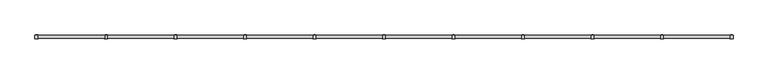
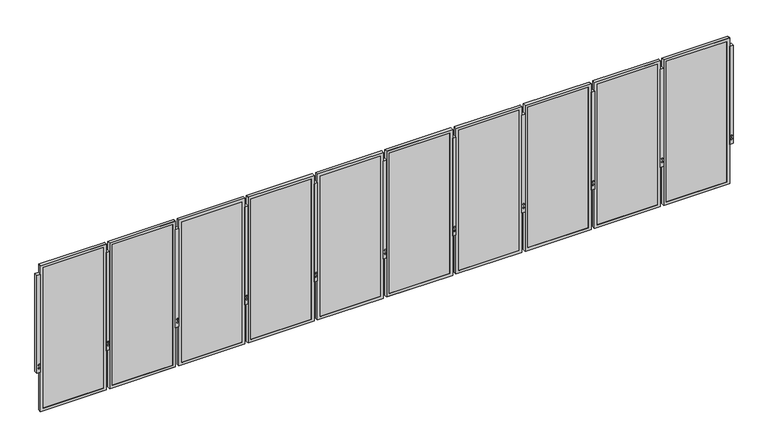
"""IFC4 building model written with IfcOpenShell, lengths in millimetres: railing geometry."""

from ifc_helpers import new_model, si_unit, frame, origin, place, context, project, spatial, polyline, outline, extrude, faceted_brep, source, transform, mapped, element, save


def railing_43f9bcb1(model_context):
    return source(origin(), model_context, "Body", "SolidModel", [
        extrude(outline(polyline([(-18861.6516671, -40155.8902105), (-18810.8516671, -40155.8902105), (-18810.8516671, -40206.6902105), (-18861.6516671, -40206.6902105), (-18861.6516671, -40155.8902105)])), frame((0.0, 0.0, -609.6), z_axis=(0.0, 0.0, 1.0), x_axis=(1.0, 0.0, 0.0)), (0.0, 0.0, 1.0), 1524.0),
        extrude(outline(polyline([(-530.1129981, -18846.6722373), (-542.3802561, -18843.3852354), (-545.667258, -18831.1179774), (-536.6870019, -18822.1377213), (-524.4197439, -18825.4247231), (-521.132742, -18837.6919811), (-530.1129981, -18846.6722373)])), frame((0.0, -40208.5368983, 0.0), z_axis=(0.0, 1.0, 0.0), x_axis=(0.0, 0.0, 1.0)), (0.0, 0.0, 1.0), 54.4933756),
        extrude(outline(polyline([(-479.3129981, -18846.6722373), (-491.5802561, -18843.3852354), (-494.867258, -18831.1179774), (-485.8870019, -18822.1377213), (-473.6197439, -18825.4247231), (-470.332742, -18837.6919811), (-479.3129981, -18846.6722373)])), frame((0.0, -40208.5368983, 0.0), z_axis=(0.0, 1.0, 0.0), x_axis=(0.0, 0.0, 1.0)), (0.0, 0.0, 1.0), 54.4933756),
        faceted_brep([(-19828.0561205, -40203.0834105, -1222.375), (-18859.6811205, -40203.0834105, -1222.375), (-18859.6811205, -40203.0834105, 1044.575), (-19828.0561205, -40203.0834105, 1044.575), (-19786.7811205, -40203.0834105, 1003.3), (-18900.9561205, -40203.0834105, 1003.3), (-18900.9561205, -40203.0834105, -1181.1), (-19786.7811205, -40203.0834105, -1181.1), (-19786.7811205, -40200.3402105, 1003.3), (-19786.7811205, -40200.3402105, -1181.1), (-19828.0561205, -40159.2101139, 1044.575), (-19828.0561205, -40159.2101139, -1222.375), (-19824.8811205, -40159.2101139, 1041.4), (-19824.8811205, -40200.3402105, 1041.4), (-19824.8811205, -40200.3402105, -1219.2), (-19824.8811205, -40159.2101139, -1219.2), (-18900.9561205, -40200.3402105, -1181.1), (-18859.6811205, -40159.2101139, -1222.375), (-18862.8561205, -40200.3402105, -1219.2), (-18862.8561205, -40159.2101139, -1219.2), (-18900.9561205, -40200.3402105, 1003.3), (-18859.6811205, -40159.2101139, 1044.575), (-18862.8561205, -40200.3402105, 1041.4), (-18862.8561205, -40159.2101139, 1041.4)], [[[0, 1, 2, 3], [4, 5, 6, 7]], [[8, 4, 7, 9]], [[3, 10, 11, 0]], [[12, 13, 14, 15]], [[9, 7, 6, 16]], [[0, 11, 17, 1]], [[15, 14, 18, 19]], [[16, 6, 5, 20]], [[1, 17, 21, 2]], [[19, 18, 22, 23]], [[20, 5, 4, 8]], [[10, 21, 17, 11], [15, 19, 23, 12]], [[2, 21, 10, 3]], [[13, 22, 18, 14], [9, 16, 20, 8]], [[23, 22, 13, 12]]]),
        extrude(outline(polyline([(-19824.8811205, -40190.8152105), (-18862.8561205, -40190.8152105), (-18862.8561205, -40200.3402105), (-19824.8811205, -40200.3402105), (-19824.8811205, -40190.8152105)])), frame((0.0, 0.0, -1219.2), z_axis=(0.0, 0.0, 1.0), x_axis=(1.0, 0.0, 0.0)), (0.0, 0.0, 1.0), 2260.6),
        extrude(outline(polyline([(-19879.2391671, -40155.8902105), (-19828.4391671, -40155.8902105), (-19828.4391671, -40206.6902105), (-19879.2391671, -40206.6902105), (-19879.2391671, -40155.8902105)])), frame((0.0, 0.0, -609.6), z_axis=(0.0, 0.0, 1.0), x_axis=(1.0, 0.0, 0.0)), (0.0, 0.0, 1.0), 1524.0),
        extrude(outline(polyline([(-530.1129981, -19864.2597373), (-542.3802561, -19860.9727354), (-545.667258, -19848.7054774), (-536.6870019, -19839.7252213), (-524.4197439, -19843.0122231), (-521.132742, -19855.2794811), (-530.1129981, -19864.2597373)])), frame((0.0, -40208.5368983, 0.0), z_axis=(0.0, 1.0, 0.0), x_axis=(0.0, 0.0, 1.0)), (0.0, 0.0, 1.0), 54.4933756),
        extrude(outline(polyline([(-479.3129981, -19864.2597373), (-491.5802561, -19860.9727354), (-494.867258, -19848.7054774), (-485.8870019, -19839.7252213), (-473.6197439, -19843.0122231), (-470.332742, -19855.2794811), (-479.3129981, -19864.2597373)])), frame((0.0, -40208.5368983, 0.0), z_axis=(0.0, 1.0, 0.0), x_axis=(0.0, 0.0, 1.0)), (0.0, 0.0, 1.0), 54.4933756),
        faceted_brep([(-20845.6436205, -40203.0834105, -1222.375), (-19877.2686205, -40203.0834105, -1222.375), (-19877.2686205, -40203.0834105, 1044.575), (-20845.6436205, -40203.0834105, 1044.575), (-20804.3686205, -40203.0834105, 1003.3), (-19918.5436205, -40203.0834105, 1003.3), (-19918.5436205, -40203.0834105, -1181.1), (-20804.3686205, -40203.0834105, -1181.1), (-20804.3686205, -40200.3402105, 1003.3), (-20804.3686205, -40200.3402105, -1181.1), (-20845.6436205, -40159.2101139, 1044.575), (-20845.6436205, -40159.2101139, -1222.375), (-20842.4686205, -40159.2101139, 1041.4), (-20842.4686205, -40200.3402105, 1041.4), (-20842.4686205, -40200.3402105, -1219.2), (-20842.4686205, -40159.2101139, -1219.2), (-19918.5436205, -40200.3402105, -1181.1), (-19877.2686205, -40159.2101139, -1222.375), (-19880.4436205, -40200.3402105, -1219.2), (-19880.4436205, -40159.2101139, -1219.2), (-19918.5436205, -40200.3402105, 1003.3), (-19877.2686205, -40159.2101139, 1044.575), (-19880.4436205, -40200.3402105, 1041.4), (-19880.4436205, -40159.2101139, 1041.4)], [[[0, 1, 2, 3], [4, 5, 6, 7]], [[8, 4, 7, 9]], [[3, 10, 11, 0]], [[12, 13, 14, 15]], [[9, 7, 6, 16]], [[0, 11, 17, 1]], [[15, 14, 18, 19]], [[16, 6, 5, 20]], [[1, 17, 21, 2]], [[19, 18, 22, 23]], [[20, 5, 4, 8]], [[10, 21, 17, 11], [15, 19, 23, 12]], [[2, 21, 10, 3]], [[13, 22, 18, 14], [9, 16, 20, 8]], [[23, 22, 13, 12]]]),
        extrude(outline(polyline([(-20842.4686205, -40190.8152105), (-19880.4436205, -40190.8152105), (-19880.4436205, -40200.3402105), (-20842.4686205, -40200.3402105), (-20842.4686205, -40190.8152105)])), frame((0.0, 0.0, -1219.2), z_axis=(0.0, 0.0, 1.0), x_axis=(1.0, 0.0, 0.0)), (0.0, 0.0, 1.0), 2260.6),
        extrude(outline(polyline([(-20896.8266671, -40155.8902105), (-20846.0266671, -40155.8902105), (-20846.0266671, -40206.6902105), (-20896.8266671, -40206.6902105), (-20896.8266671, -40155.8902105)])), frame((0.0, 0.0, -609.6), z_axis=(0.0, 0.0, 1.0), x_axis=(1.0, 0.0, 0.0)), (0.0, 0.0, 1.0), 1524.0),
        extrude(outline(polyline([(-530.1129981, -20881.8472373), (-542.3802561, -20878.5602354), (-545.667258, -20866.2929774), (-536.6870019, -20857.3127213), (-524.4197439, -20860.5997231), (-521.132742, -20872.8669811), (-530.1129981, -20881.8472373)])), frame((0.0, -40208.5368983, 0.0), z_axis=(0.0, 1.0, 0.0), x_axis=(0.0, 0.0, 1.0)), (0.0, 0.0, 1.0), 54.4933756),
        extrude(outline(polyline([(-479.3129981, -20881.8472373), (-491.5802561, -20878.5602354), (-494.867258, -20866.2929774), (-485.8870019, -20857.3127213), (-473.6197439, -20860.5997231), (-470.332742, -20872.8669811), (-479.3129981, -20881.8472373)])), frame((0.0, -40208.5368983, 0.0), z_axis=(0.0, 1.0, 0.0), x_axis=(0.0, 0.0, 1.0)), (0.0, 0.0, 1.0), 54.4933756),
        faceted_brep([(-21863.2311205, -40203.0834105, -1222.375), (-20894.8561205, -40203.0834105, -1222.375), (-20894.8561205, -40203.0834105, 1044.575), (-21863.2311205, -40203.0834105, 1044.575), (-21821.9561205, -40203.0834105, 1003.3), (-20936.1311205, -40203.0834105, 1003.3), (-20936.1311205, -40203.0834105, -1181.1), (-21821.9561205, -40203.0834105, -1181.1), (-21821.9561205, -40200.3402105, 1003.3), (-21821.9561205, -40200.3402105, -1181.1), (-21863.2311205, -40159.2101139, 1044.575), (-21863.2311205, -40159.2101139, -1222.375), (-21860.0561205, -40159.2101139, 1041.4), (-21860.0561205, -40200.3402105, 1041.4), (-21860.0561205, -40200.3402105, -1219.2), (-21860.0561205, -40159.2101139, -1219.2), (-20936.1311205, -40200.3402105, -1181.1), (-20894.8561205, -40159.2101139, -1222.375), (-20898.0311205, -40200.3402105, -1219.2), (-20898.0311205, -40159.2101139, -1219.2), (-20936.1311205, -40200.3402105, 1003.3), (-20894.8561205, -40159.2101139, 1044.575), (-20898.0311205, -40200.3402105, 1041.4), (-20898.0311205, -40159.2101139, 1041.4)], [[[0, 1, 2, 3], [4, 5, 6, 7]], [[8, 4, 7, 9]], [[3, 10, 11, 0]], [[12, 13, 14, 15]], [[9, 7, 6, 16]], [[0, 11, 17, 1]], [[15, 14, 18, 19]], [[16, 6, 5, 20]], [[1, 17, 21, 2]], [[19, 18, 22, 23]], [[20, 5, 4, 8]], [[10, 21, 17, 11], [15, 19, 23, 12]], [[2, 21, 10, 3]], [[13, 22, 18, 14], [9, 16, 20, 8]], [[23, 22, 13, 12]]]),
        extrude(outline(polyline([(-21860.0561205, -40190.8152105), (-20898.0311205, -40190.8152105), (-20898.0311205, -40200.3402105), (-21860.0561205, -40200.3402105), (-21860.0561205, -40190.8152105)])), frame((0.0, 0.0, -1219.2), z_axis=(0.0, 0.0, 1.0), x_axis=(1.0, 0.0, 0.0)), (0.0, 0.0, 1.0), 2260.6),
        extrude(outline(polyline([(-21914.4141671, -40155.8902105), (-21863.6141671, -40155.8902105), (-21863.6141671, -40206.6902105), (-21914.4141671, -40206.6902105), (-21914.4141671, -40155.8902105)])), frame((0.0, 0.0, -609.6), z_axis=(0.0, 0.0, 1.0), x_axis=(1.0, 0.0, 0.0)), (0.0, 0.0, 1.0), 1524.0),
        extrude(outline(polyline([(-530.1129981, -21899.4347373), (-542.3802561, -21896.1477354), (-545.667258, -21883.8804774), (-536.6870019, -21874.9002213), (-524.4197439, -21878.1872231), (-521.132742, -21890.4544811), (-530.1129981, -21899.4347373)])), frame((0.0, -40208.5368983, 0.0), z_axis=(0.0, 1.0, 0.0), x_axis=(0.0, 0.0, 1.0)), (0.0, 0.0, 1.0), 54.4933756),
        extrude(outline(polyline([(-479.3129981, -21899.4347373), (-491.5802561, -21896.1477354), (-494.867258, -21883.8804774), (-485.8870019, -21874.9002213), (-473.6197439, -21878.1872231), (-470.332742, -21890.4544811), (-479.3129981, -21899.4347373)])), frame((0.0, -40208.5368983, 0.0), z_axis=(0.0, 1.0, 0.0), x_axis=(0.0, 0.0, 1.0)), (0.0, 0.0, 1.0), 54.4933756),
        faceted_brep([(-22880.8186205, -40203.0834105, -1222.375), (-21912.4436205, -40203.0834105, -1222.375), (-21912.4436205, -40203.0834105, 1044.575), (-22880.8186205, -40203.0834105, 1044.575), (-22839.5436205, -40203.0834105, 1003.3), (-21953.7186205, -40203.0834105, 1003.3), (-21953.7186205, -40203.0834105, -1181.1), (-22839.5436205, -40203.0834105, -1181.1), (-22839.5436205, -40200.3402105, 1003.3), (-22839.5436205, -40200.3402105, -1181.1), (-22880.8186205, -40159.2101139, 1044.575), (-22880.8186205, -40159.2101139, -1222.375), (-22877.6436205, -40159.2101139, 1041.4), (-22877.6436205, -40200.3402105, 1041.4), (-22877.6436205, -40200.3402105, -1219.2), (-22877.6436205, -40159.2101139, -1219.2), (-21953.7186205, -40200.3402105, -1181.1), (-21912.4436205, -40159.2101139, -1222.375), (-21915.6186205, -40200.3402105, -1219.2), (-21915.6186205, -40159.2101139, -1219.2), (-21953.7186205, -40200.3402105, 1003.3), (-21912.4436205, -40159.2101139, 1044.575), (-21915.6186205, -40200.3402105, 1041.4), (-21915.6186205, -40159.2101139, 1041.4)], [[[0, 1, 2, 3], [4, 5, 6, 7]], [[8, 4, 7, 9]], [[3, 10, 11, 0]], [[12, 13, 14, 15]], [[9, 7, 6, 16]], [[0, 11, 17, 1]], [[15, 14, 18, 19]], [[16, 6, 5, 20]], [[1, 17, 21, 2]], [[19, 18, 22, 23]], [[20, 5, 4, 8]], [[10, 21, 17, 11], [15, 19, 23, 12]], [[2, 21, 10, 3]], [[13, 22, 18, 14], [9, 16, 20, 8]], [[23, 22, 13, 12]]]),
        extrude(outline(polyline([(-22877.6436205, -40190.8152105), (-21915.6186205, -40190.8152105), (-21915.6186205, -40200.3402105), (-22877.6436205, -40200.3402105), (-22877.6436205, -40190.8152105)])), frame((0.0, 0.0, -1219.2), z_axis=(0.0, 0.0, 1.0), x_axis=(1.0, 0.0, 0.0)), (0.0, 0.0, 1.0), 2260.6),
        extrude(outline(polyline([(-22932.0016671, -40155.8902105), (-22881.2016671, -40155.8902105), (-22881.2016671, -40206.6902105), (-22932.0016671, -40206.6902105), (-22932.0016671, -40155.8902105)])), frame((0.0, 0.0, -609.6), z_axis=(0.0, 0.0, 1.0), x_axis=(1.0, 0.0, 0.0)), (0.0, 0.0, 1.0), 1524.0),
        extrude(outline(polyline([(-530.1129981, -22917.0222373), (-542.3802561, -22913.7352354), (-545.667258, -22901.4679774), (-536.6870019, -22892.4877213), (-524.4197439, -22895.7747231), (-521.132742, -22908.0419811), (-530.1129981, -22917.0222373)])), frame((0.0, -40208.5368983, 0.0), z_axis=(0.0, 1.0, 0.0), x_axis=(0.0, 0.0, 1.0)), (0.0, 0.0, 1.0), 54.4933756),
        extrude(outline(polyline([(-479.3129981, -22917.0222373), (-491.5802561, -22913.7352354), (-494.867258, -22901.4679774), (-485.8870019, -22892.4877213), (-473.6197439, -22895.7747231), (-470.332742, -22908.0419811), (-479.3129981, -22917.0222373)])), frame((0.0, -40208.5368983, 0.0), z_axis=(0.0, 1.0, 0.0), x_axis=(0.0, 0.0, 1.0)), (0.0, 0.0, 1.0), 54.4933756),
        faceted_brep([(-23898.4061205, -40203.0834105, -1222.375), (-22930.0311205, -40203.0834105, -1222.375), (-22930.0311205, -40203.0834105, 1044.575), (-23898.4061205, -40203.0834105, 1044.575), (-23857.1311205, -40203.0834105, 1003.3), (-22971.3061205, -40203.0834105, 1003.3), (-22971.3061205, -40203.0834105, -1181.1), (-23857.1311205, -40203.0834105, -1181.1), (-23857.1311205, -40200.3402105, 1003.3), (-23857.1311205, -40200.3402105, -1181.1), (-23898.4061205, -40159.2101139, 1044.575), (-23898.4061205, -40159.2101139, -1222.375), (-23895.2311205, -40159.2101139, 1041.4), (-23895.2311205, -40200.3402105, 1041.4), (-23895.2311205, -40200.3402105, -1219.2), (-23895.2311205, -40159.2101139, -1219.2), (-22971.3061205, -40200.3402105, -1181.1), (-22930.0311205, -40159.2101139, -1222.375), (-22933.2061205, -40200.3402105, -1219.2), (-22933.2061205, -40159.2101139, -1219.2), (-22971.3061205, -40200.3402105, 1003.3), (-22930.0311205, -40159.2101139, 1044.575), (-22933.2061205, -40200.3402105, 1041.4), (-22933.2061205, -40159.2101139, 1041.4)], [[[0, 1, 2, 3], [4, 5, 6, 7]], [[8, 4, 7, 9]], [[3, 10, 11, 0]], [[12, 13, 14, 15]], [[9, 7, 6, 16]], [[0, 11, 17, 1]], [[15, 14, 18, 19]], [[16, 6, 5, 20]], [[1, 17, 21, 2]], [[19, 18, 22, 23]], [[20, 5, 4, 8]], [[10, 21, 17, 11], [15, 19, 23, 12]], [[2, 21, 10, 3]], [[13, 22, 18, 14], [9, 16, 20, 8]], [[23, 22, 13, 12]]]),
        extrude(outline(polyline([(-23895.2311205, -40190.8152105), (-22933.2061205, -40190.8152105), (-22933.2061205, -40200.3402105), (-23895.2311205, -40200.3402105), (-23895.2311205, -40190.8152105)])), frame((0.0, 0.0, -1219.2), z_axis=(0.0, 0.0, 1.0), x_axis=(1.0, 0.0, 0.0)), (0.0, 0.0, 1.0), 2260.6),
        extrude(outline(polyline([(-23949.5891671, -40155.8902105), (-23898.7891671, -40155.8902105), (-23898.7891671, -40206.6902105), (-23949.5891671, -40206.6902105), (-23949.5891671, -40155.8902105)])), frame((0.0, 0.0, -609.6), z_axis=(0.0, 0.0, 1.0), x_axis=(1.0, 0.0, 0.0)), (0.0, 0.0, 1.0), 1524.0),
        extrude(outline(polyline([(-530.1129981, -23934.6097373), (-542.3802561, -23931.3227354), (-545.667258, -23919.0554774), (-536.6870019, -23910.0752213), (-524.4197439, -23913.3622231), (-521.132742, -23925.6294811), (-530.1129981, -23934.6097373)])), frame((0.0, -40208.5368983, 0.0), z_axis=(0.0, 1.0, 0.0), x_axis=(0.0, 0.0, 1.0)), (0.0, 0.0, 1.0), 54.4933756),
        extrude(outline(polyline([(-479.3129981, -23934.6097373), (-491.5802561, -23931.3227354), (-494.867258, -23919.0554774), (-485.8870019, -23910.0752213), (-473.6197439, -23913.3622231), (-470.332742, -23925.6294811), (-479.3129981, -23934.6097373)])), frame((0.0, -40208.5368983, 0.0), z_axis=(0.0, 1.0, 0.0), x_axis=(0.0, 0.0, 1.0)), (0.0, 0.0, 1.0), 54.4933756),
        faceted_brep([(-24915.9936205, -40203.0834105, -1222.375), (-23947.6186205, -40203.0834105, -1222.375), (-23947.6186205, -40203.0834105, 1044.575), (-24915.9936205, -40203.0834105, 1044.575), (-24874.7186205, -40203.0834105, 1003.3), (-23988.8936205, -40203.0834105, 1003.3), (-23988.8936205, -40203.0834105, -1181.1), (-24874.7186205, -40203.0834105, -1181.1), (-24874.7186205, -40200.3402105, 1003.3), (-24874.7186205, -40200.3402105, -1181.1), (-24915.9936205, -40159.2101139, 1044.575), (-24915.9936205, -40159.2101139, -1222.375), (-24912.8186205, -40159.2101139, 1041.4), (-24912.8186205, -40200.3402105, 1041.4), (-24912.8186205, -40200.3402105, -1219.2), (-24912.8186205, -40159.2101139, -1219.2), (-23988.8936205, -40200.3402105, -1181.1), (-23947.6186205, -40159.2101139, -1222.375), (-23950.7936205, -40200.3402105, -1219.2), (-23950.7936205, -40159.2101139, -1219.2), (-23988.8936205, -40200.3402105, 1003.3), (-23947.6186205, -40159.2101139, 1044.575), (-23950.7936205, -40200.3402105, 1041.4), (-23950.7936205, -40159.2101139, 1041.4)], [[[0, 1, 2, 3], [4, 5, 6, 7]], [[8, 4, 7, 9]], [[3, 10, 11, 0]], [[12, 13, 14, 15]], [[9, 7, 6, 16]], [[0, 11, 17, 1]], [[15, 14, 18, 19]], [[16, 6, 5, 20]], [[1, 17, 21, 2]], [[19, 18, 22, 23]], [[20, 5, 4, 8]], [[10, 21, 17, 11], [15, 19, 23, 12]], [[2, 21, 10, 3]], [[13, 22, 18, 14], [9, 16, 20, 8]], [[23, 22, 13, 12]]]),
        extrude(outline(polyline([(-24912.8186205, -40190.8152105), (-23950.7936205, -40190.8152105), (-23950.7936205, -40200.3402105), (-24912.8186205, -40200.3402105), (-24912.8186205, -40190.8152105)])), frame((0.0, 0.0, -1219.2), z_axis=(0.0, 0.0, 1.0), x_axis=(1.0, 0.0, 0.0)), (0.0, 0.0, 1.0), 2260.6),
        extrude(outline(polyline([(-24967.1766671, -40155.8902105), (-24916.3766671, -40155.8902105), (-24916.3766671, -40206.6902105), (-24967.1766671, -40206.6902105), (-24967.1766671, -40155.8902105)])), frame((0.0, 0.0, -609.6), z_axis=(0.0, 0.0, 1.0), x_axis=(1.0, 0.0, 0.0)), (0.0, 0.0, 1.0), 1524.0),
        extrude(outline(polyline([(-530.1129981, -24952.1972373), (-542.3802561, -24948.9102354), (-545.667258, -24936.6429774), (-536.6870019, -24927.6627213), (-524.4197439, -24930.9497231), (-521.132742, -24943.2169811), (-530.1129981, -24952.1972373)])), frame((0.0, -40208.5368983, 0.0), z_axis=(0.0, 1.0, 0.0), x_axis=(0.0, 0.0, 1.0)), (0.0, 0.0, 1.0), 54.4933756),
        extrude(outline(polyline([(-479.3129981, -24952.1972373), (-491.5802561, -24948.9102354), (-494.867258, -24936.6429774), (-485.8870019, -24927.6627213), (-473.6197439, -24930.9497231), (-470.332742, -24943.2169811), (-479.3129981, -24952.1972373)])), frame((0.0, -40208.5368983, 0.0), z_axis=(0.0, 1.0, 0.0), x_axis=(0.0, 0.0, 1.0)), (0.0, 0.0, 1.0), 54.4933756),
        faceted_brep([(-25933.5811205, -40203.0834105, -1222.375), (-24965.2061205, -40203.0834105, -1222.375), (-24965.2061205, -40203.0834105, 1044.575), (-25933.5811205, -40203.0834105, 1044.575), (-25892.3061205, -40203.0834105, 1003.3), (-25006.4811205, -40203.0834105, 1003.3), (-25006.4811205, -40203.0834105, -1181.1), (-25892.3061205, -40203.0834105, -1181.1), (-25892.3061205, -40200.3402105, 1003.3), (-25892.3061205, -40200.3402105, -1181.1), (-25933.5811205, -40159.2101139, 1044.575), (-25933.5811205, -40159.2101139, -1222.375), (-25930.4061205, -40159.2101139, 1041.4), (-25930.4061205, -40200.3402105, 1041.4), (-25930.4061205, -40200.3402105, -1219.2), (-25930.4061205, -40159.2101139, -1219.2), (-25006.4811205, -40200.3402105, -1181.1), (-24965.2061205, -40159.2101139, -1222.375), (-24968.3811205, -40200.3402105, -1219.2), (-24968.3811205, -40159.2101139, -1219.2), (-25006.4811205, -40200.3402105, 1003.3), (-24965.2061205, -40159.2101139, 1044.575), (-24968.3811205, -40200.3402105, 1041.4), (-24968.3811205, -40159.2101139, 1041.4)], [[[0, 1, 2, 3], [4, 5, 6, 7]], [[8, 4, 7, 9]], [[3, 10, 11, 0]], [[12, 13, 14, 15]], [[9, 7, 6, 16]], [[0, 11, 17, 1]], [[15, 14, 18, 19]], [[16, 6, 5, 20]], [[1, 17, 21, 2]], [[19, 18, 22, 23]], [[20, 5, 4, 8]], [[10, 21, 17, 11], [15, 19, 23, 12]], [[2, 21, 10, 3]], [[13, 22, 18, 14], [9, 16, 20, 8]], [[23, 22, 13, 12]]]),
        extrude(outline(polyline([(-25930.4061205, -40190.8152105), (-24968.3811205, -40190.8152105), (-24968.3811205, -40200.3402105), (-25930.4061205, -40200.3402105), (-25930.4061205, -40190.8152105)])), frame((0.0, 0.0, -1219.2), z_axis=(0.0, 0.0, 1.0), x_axis=(1.0, 0.0, 0.0)), (0.0, 0.0, 1.0), 2260.6),
        extrude(outline(polyline([(-25984.7641671, -40155.8902105), (-25933.9641671, -40155.8902105), (-25933.9641671, -40206.6902105), (-25984.7641671, -40206.6902105), (-25984.7641671, -40155.8902105)])), frame((0.0, 0.0, -609.6), z_axis=(0.0, 0.0, 1.0), x_axis=(1.0, 0.0, 0.0)), (0.0, 0.0, 1.0), 1524.0),
        extrude(outline(polyline([(-530.1129981, -25969.7847373), (-542.3802561, -25966.4977354), (-545.667258, -25954.2304774), (-536.6870019, -25945.2502213), (-524.4197439, -25948.5372231), (-521.132742, -25960.8044811), (-530.1129981, -25969.7847373)])), frame((0.0, -40208.5368983, 0.0), z_axis=(0.0, 1.0, 0.0), x_axis=(0.0, 0.0, 1.0)), (0.0, 0.0, 1.0), 54.4933756),
        extrude(outline(polyline([(-479.3129981, -25969.7847373), (-491.5802561, -25966.4977354), (-494.867258, -25954.2304774), (-485.8870019, -25945.2502213), (-473.6197439, -25948.5372231), (-470.332742, -25960.8044811), (-479.3129981, -25969.7847373)])), frame((0.0, -40208.5368983, 0.0), z_axis=(0.0, 1.0, 0.0), x_axis=(0.0, 0.0, 1.0)), (0.0, 0.0, 1.0), 54.4933756),
        faceted_brep([(-26951.1686205, -40203.0834105, -1222.375), (-25982.7936205, -40203.0834105, -1222.375), (-25982.7936205, -40203.0834105, 1044.575), (-26951.1686205, -40203.0834105, 1044.575), (-26909.8936205, -40203.0834105, 1003.3), (-26024.0686205, -40203.0834105, 1003.3), (-26024.0686205, -40203.0834105, -1181.1), (-26909.8936205, -40203.0834105, -1181.1), (-26909.8936205, -40200.3402105, 1003.3), (-26909.8936205, -40200.3402105, -1181.1), (-26951.1686205, -40159.2101139, 1044.575), (-26951.1686205, -40159.2101139, -1222.375), (-26947.9936205, -40159.2101139, 1041.4), (-26947.9936205, -40200.3402105, 1041.4), (-26947.9936205, -40200.3402105, -1219.2), (-26947.9936205, -40159.2101139, -1219.2), (-26024.0686205, -40200.3402105, -1181.1), (-25982.7936205, -40159.2101139, -1222.375), (-25985.9686205, -40200.3402105, -1219.2), (-25985.9686205, -40159.2101139, -1219.2), (-26024.0686205, -40200.3402105, 1003.3), (-25982.7936205, -40159.2101139, 1044.575), (-25985.9686205, -40200.3402105, 1041.4), (-25985.9686205, -40159.2101139, 1041.4)], [[[0, 1, 2, 3], [4, 5, 6, 7]], [[8, 4, 7, 9]], [[3, 10, 11, 0]], [[12, 13, 14, 15]], [[9, 7, 6, 16]], [[0, 11, 17, 1]], [[15, 14, 18, 19]], [[16, 6, 5, 20]], [[1, 17, 21, 2]], [[19, 18, 22, 23]], [[20, 5, 4, 8]], [[10, 21, 17, 11], [15, 19, 23, 12]], [[2, 21, 10, 3]], [[13, 22, 18, 14], [9, 16, 20, 8]], [[23, 22, 13, 12]]]),
        extrude(outline(polyline([(-26947.9936205, -40190.8152105), (-25985.9686205, -40190.8152105), (-25985.9686205, -40200.3402105), (-26947.9936205, -40200.3402105), (-26947.9936205, -40190.8152105)])), frame((0.0, 0.0, -1219.2), z_axis=(0.0, 0.0, 1.0), x_axis=(1.0, 0.0, 0.0)), (0.0, 0.0, 1.0), 2260.6),
        extrude(outline(polyline([(-27002.3516671, -40155.8902105), (-26951.5516671, -40155.8902105), (-26951.5516671, -40206.6902105), (-27002.3516671, -40206.6902105), (-27002.3516671, -40155.8902105)])), frame((0.0, 0.0, -609.6), z_axis=(0.0, 0.0, 1.0), x_axis=(1.0, 0.0, 0.0)), (0.0, 0.0, 1.0), 1524.0),
        extrude(outline(polyline([(-530.1129981, -26987.3722373), (-542.3802561, -26984.0852354), (-545.667258, -26971.8179774), (-536.6870019, -26962.8377213), (-524.4197439, -26966.1247231), (-521.132742, -26978.3919811), (-530.1129981, -26987.3722373)])), frame((0.0, -40208.5368983, 0.0), z_axis=(0.0, 1.0, 0.0), x_axis=(0.0, 0.0, 1.0)), (0.0, 0.0, 1.0), 54.4933756),
        extrude(outline(polyline([(-479.3129981, -26987.3722373), (-491.5802561, -26984.0852354), (-494.867258, -26971.8179774), (-485.8870019, -26962.8377213), (-473.6197439, -26966.1247231), (-470.332742, -26978.3919811), (-479.3129981, -26987.3722373)])), frame((0.0, -40208.5368983, 0.0), z_axis=(0.0, 1.0, 0.0), x_axis=(0.0, 0.0, 1.0)), (0.0, 0.0, 1.0), 54.4933756),
        faceted_brep([(-27968.7561205, -40203.0834105, -1222.375), (-27000.3811205, -40203.0834105, -1222.375), (-27000.3811205, -40203.0834105, 1044.575), (-27968.7561205, -40203.0834105, 1044.575), (-27927.4811205, -40203.0834105, 1003.3), (-27041.6561205, -40203.0834105, 1003.3), (-27041.6561205, -40203.0834105, -1181.1), (-27927.4811205, -40203.0834105, -1181.1), (-27927.4811205, -40200.3402105, 1003.3), (-27927.4811205, -40200.3402105, -1181.1), (-27968.7561205, -40159.2101139, 1044.575), (-27968.7561205, -40159.2101139, -1222.375), (-27965.5811205, -40159.2101139, 1041.4), (-27965.5811205, -40200.3402105, 1041.4), (-27965.5811205, -40200.3402105, -1219.2), (-27965.5811205, -40159.2101139, -1219.2), (-27041.6561205, -40200.3402105, -1181.1), (-27000.3811205, -40159.2101139, -1222.375), (-27003.5561205, -40200.3402105, -1219.2), (-27003.5561205, -40159.2101139, -1219.2), (-27041.6561205, -40200.3402105, 1003.3), (-27000.3811205, -40159.2101139, 1044.575), (-27003.5561205, -40200.3402105, 1041.4), (-27003.5561205, -40159.2101139, 1041.4)], [[[0, 1, 2, 3], [4, 5, 6, 7]], [[8, 4, 7, 9]], [[3, 10, 11, 0]], [[12, 13, 14, 15]], [[9, 7, 6, 16]], [[0, 11, 17, 1]], [[15, 14, 18, 19]], [[16, 6, 5, 20]], [[1, 17, 21, 2]], [[19, 18, 22, 23]], [[20, 5, 4, 8]], [[10, 21, 17, 11], [15, 19, 23, 12]], [[2, 21, 10, 3]], [[13, 22, 18, 14], [9, 16, 20, 8]], [[23, 22, 13, 12]]]),
        extrude(outline(polyline([(-27965.5811205, -40190.8152105), (-27003.5561205, -40190.8152105), (-27003.5561205, -40200.3402105), (-27965.5811205, -40200.3402105), (-27965.5811205, -40190.8152105)])), frame((0.0, 0.0, -1219.2), z_axis=(0.0, 0.0, 1.0), x_axis=(1.0, 0.0, 0.0)), (0.0, 0.0, 1.0), 2260.6),
        extrude(outline(polyline([(-28019.9391671, -40155.8902105), (-27969.1391671, -40155.8902105), (-27969.1391671, -40206.6902105), (-28019.9391671, -40206.6902105), (-28019.9391671, -40155.8902105)])), frame((0.0, 0.0, -609.6), z_axis=(0.0, 0.0, 1.0), x_axis=(1.0, 0.0, 0.0)), (0.0, 0.0, 1.0), 1524.0),
        extrude(outline(polyline([(-530.1129981, -28004.9597373), (-542.3802561, -28001.6727354), (-545.667258, -27989.4054774), (-536.6870019, -27980.4252213), (-524.4197439, -27983.7122231), (-521.132742, -27995.9794811), (-530.1129981, -28004.9597373)])), frame((0.0, -40208.5368983, 0.0), z_axis=(0.0, 1.0, 0.0), x_axis=(0.0, 0.0, 1.0)), (0.0, 0.0, 1.0), 54.4933756),
        extrude(outline(polyline([(-479.3129981, -28004.9597373), (-491.5802561, -28001.6727354), (-494.867258, -27989.4054774), (-485.8870019, -27980.4252213), (-473.6197439, -27983.7122231), (-470.332742, -27995.9794811), (-479.3129981, -28004.9597373)])), frame((0.0, -40208.5368983, 0.0), z_axis=(0.0, 1.0, 0.0), x_axis=(0.0, 0.0, 1.0)), (0.0, 0.0, 1.0), 54.4933756),
        faceted_brep([(-28986.3436205, -40203.0834105, -1222.375), (-28017.9686205, -40203.0834105, -1222.375), (-28017.9686205, -40203.0834105, 1044.575), (-28986.3436205, -40203.0834105, 1044.575), (-28945.0686205, -40203.0834105, 1003.3), (-28059.2436205, -40203.0834105, 1003.3), (-28059.2436205, -40203.0834105, -1181.1), (-28945.0686205, -40203.0834105, -1181.1), (-28945.0686205, -40200.3402105, 1003.3), (-28945.0686205, -40200.3402105, -1181.1), (-28986.3436205, -40159.2101139, 1044.575), (-28986.3436205, -40159.2101139, -1222.375), (-28983.1686205, -40159.2101139, 1041.4), (-28983.1686205, -40200.3402105, 1041.4), (-28983.1686205, -40200.3402105, -1219.2), (-28983.1686205, -40159.2101139, -1219.2), (-28059.2436205, -40200.3402105, -1181.1), (-28017.9686205, -40159.2101139, -1222.375), (-28021.1436205, -40200.3402105, -1219.2), (-28021.1436205, -40159.2101139, -1219.2), (-28059.2436205, -40200.3402105, 1003.3), (-28017.9686205, -40159.2101139, 1044.575), (-28021.1436205, -40200.3402105, 1041.4), (-28021.1436205, -40159.2101139, 1041.4)], [[[0, 1, 2, 3], [4, 5, 6, 7]], [[8, 4, 7, 9]], [[3, 10, 11, 0]], [[12, 13, 14, 15]], [[9, 7, 6, 16]], [[0, 11, 17, 1]], [[15, 14, 18, 19]], [[16, 6, 5, 20]], [[1, 17, 21, 2]], [[19, 18, 22, 23]], [[20, 5, 4, 8]], [[10, 21, 17, 11], [15, 19, 23, 12]], [[2, 21, 10, 3]], [[13, 22, 18, 14], [9, 16, 20, 8]], [[23, 22, 13, 12]]]),
        extrude(outline(polyline([(-28983.1686205, -40190.8152105), (-28021.1436205, -40190.8152105), (-28021.1436205, -40200.3402105), (-28983.1686205, -40200.3402105), (-28983.1686205, -40190.8152105)])), frame((0.0, 0.0, -1219.2), z_axis=(0.0, 0.0, 1.0), x_axis=(1.0, 0.0, 0.0)), (0.0, 0.0, 1.0), 2260.6),
        extrude(outline(polyline([(-29037.5266671, -40155.8902105), (-28986.7266671, -40155.8902105), (-28986.7266671, -40206.6902105), (-29037.5266671, -40206.6902105), (-29037.5266671, -40155.8902105)])), frame((0.0, 0.0, -609.6), z_axis=(0.0, 0.0, 1.0), x_axis=(1.0, 0.0, 0.0)), (0.0, 0.0, 1.0), 1524.0),
        extrude(outline(polyline([(-530.1129981, -29022.5472373), (-542.3802561, -29019.2602354), (-545.667258, -29006.9929774), (-536.6870019, -28998.0127213), (-524.4197439, -29001.2997231), (-521.132742, -29013.5669811), (-530.1129981, -29022.5472373)])), frame((0.0, -40208.5368983, 0.0), z_axis=(0.0, 1.0, 0.0), x_axis=(0.0, 0.0, 1.0)), (0.0, 0.0, 1.0), 54.4933756),
        extrude(outline(polyline([(-479.3129981, -29022.5472373), (-491.5802561, -29019.2602354), (-494.867258, -29006.9929774), (-485.8870019, -28998.0127213), (-473.6197439, -29001.2997231), (-470.332742, -29013.5669811), (-479.3129981, -29022.5472373)])), frame((0.0, -40208.5368983, 0.0), z_axis=(0.0, 1.0, 0.0), x_axis=(0.0, 0.0, 1.0)), (0.0, 0.0, 1.0), 54.4933756),
    ])


if __name__ == "__main__":
    model = new_model("IFC4")
    model_context = context("Model", 3, world=origin())
    ifc_project = project(units=[si_unit("LENGTHUNIT", "METRE", prefix="MILLI")], contexts=[model_context])
    site = spatial("IfcSite", under=ifc_project)
    building = spatial("IfcBuilding", under=site)
    placement = place(None, origin())
    railing_shape = railing_43f9bcb1(model_context)
    element("IfcRailing", 1, ObjectType="Railing - Amico Architectural - Expanded Mesh Railing - 1/4\" Circle - 3/8\" Staggered", at=placement, inside=building, context=model_context, shape_type="MappedRepresentation", body=[
        mapped(railing_shape, transform((0.0, 0.0, 0.0), x_axis=(1.0, 0.0, 0.0), y_axis=(0.0, 1.0, 0.0), z_axis=(0.0, 0.0, 1.0))),
    ])
    save(model, "model.ifc")
